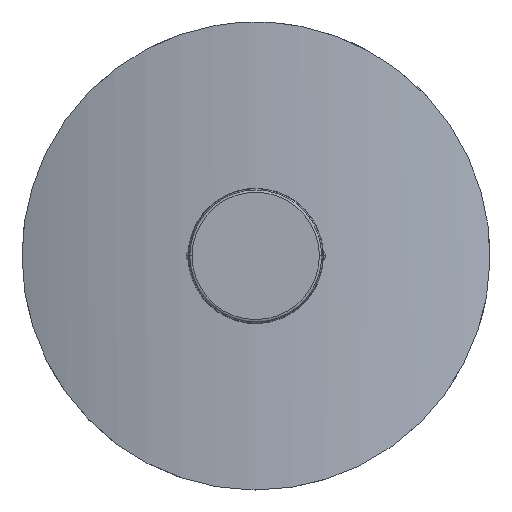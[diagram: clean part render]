
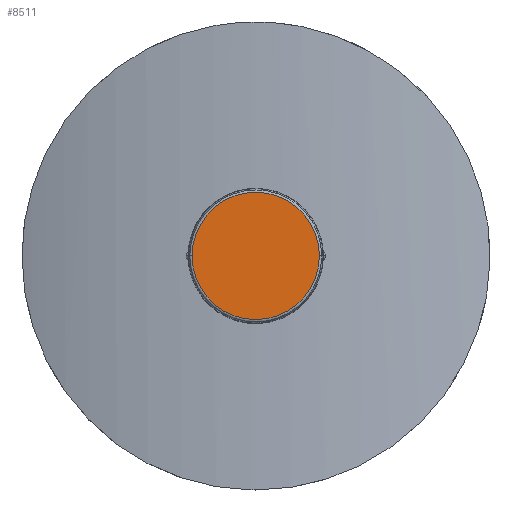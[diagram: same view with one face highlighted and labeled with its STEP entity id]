
A CAD part, top view. The second image highlights one B-rep face of the part: STEP entity #8511.
In plain terms, the highlighted planar face has unit normal (0, 0, 1).
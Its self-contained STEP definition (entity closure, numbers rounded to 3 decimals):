
#7193=CARTESIAN_POINT('',(0.,0.,48.5));
#7194=DIRECTION('',(0.,0.,1.));
#7195=DIRECTION('',(-1.,0.,0.));
#7196=AXIS2_PLACEMENT_3D('',#7193,#7194,#7195);
#7198=CARTESIAN_POINT('',(0.,0.,48.5));
#7199=DIRECTION('',(0.,0.,1.));
#7200=DIRECTION('',(1.,0.,0.));
#7201=AXIS2_PLACEMENT_3D('',#7198,#7199,#7200);
#8396=CARTESIAN_POINT('',(-68.,0.,
48.5));
#8398=VERTEX_POINT('',#8396);
#8402=CARTESIAN_POINT('',(68.,0.,48.5));
#8403=VERTEX_POINT('',#8402);
#8501=CARTESIAN_POINT('',(0.,68.,
48.5));
#8502=DIRECTION('',(0.,0.,1.));
#8503=DIRECTION('',(1.,0.,0.));
#8504=AXIS2_PLACEMENT_3D('',#8501,#8502,#8503);
#8505=PLANE('',#8504);
#8507=ORIENTED_EDGE('',*,*,#8506,.F.);
#8508=ORIENTED_EDGE('',*,*,#8491,.F.);
#8509=EDGE_LOOP('',(#8507,#8508));
#8510=FACE_OUTER_BOUND('',#8509,.F.);
#8511=ADVANCED_FACE('',(#8510),#8505,.T.);
#7197=CIRCLE('',#7196,68.);
#7202=CIRCLE('',#7201,68.);
#8491=EDGE_CURVE('',#8403,#8398,#7202,.T.);
#8506=EDGE_CURVE('',#8398,#8403,#7197,.T.);
